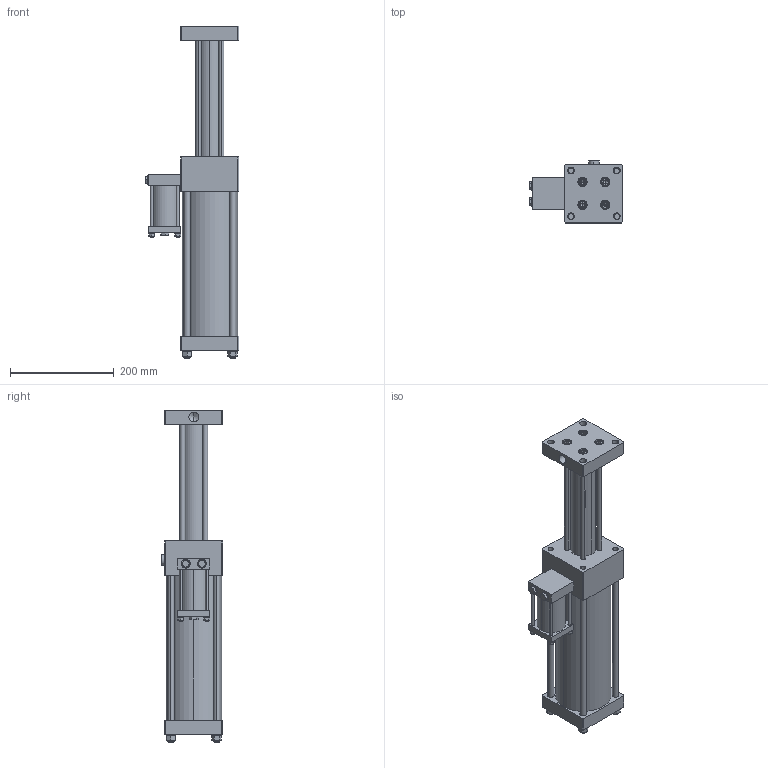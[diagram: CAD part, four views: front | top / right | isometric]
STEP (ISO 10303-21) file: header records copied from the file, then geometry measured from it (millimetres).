
FILE_DESCRIPTION (( 'STEP AP203' ), '1' );
FILE_NAME ('1320 064 100.STEP', '2016-02-22T09:10:55', ( 'Admin' ), ( '' ), 'SwSTEP 2.0', 'SolidWorks 2015', '' );
FILE_SCHEMA (( 'CONFIG_CONTROL_DESIGN' ));
Length unit declared in the file: millimetre
Products named in the file (10): hexagon nut_is1_IS 1363-2 - M6-N; spring lock washer 6735_is_IS 6735- 10; hexagon nut_is1_IS 1363-2 - M10-N; hhb(grade a)_is_IS 1364 HHB(Grade A) - M8 x 40 x 22-N_1; plain washer (type a)_is_IS 2016 A- 9_1; spring lock washer 6735_is1_IS 6735- 10_1; socket head cap screw_is_IS 2269 - M10 x 16-N_1; 1320 064 100; 1320_1320 064 100; spring lock washer 6735_is_IS 6735- 6
Assembly tree (29 placements, depth 2):
  1320 064 100
    1320_1320 064 100
    spring lock washer 6735_is_IS 6735- 6  x4
    hexagon nut_is1_IS 1363-2 - M6-N  x4
    spring lock washer 6735_is_IS 6735- 10  x4
    hexagon nut_is1_IS 1363-2 - M10-N  x4
    hhb(grade a)_is_IS 1364 HHB(Grade A) - M8 x 40 x 22-N_1  x2
    plain washer (type a)_is_IS 2016 A- 9_1  x2
    spring lock washer 6735_is1_IS 6735- 10_1  x4
    socket head cap screw_is_IS 2269 - M10 x 16-N_1  x4
Bounding box: 180.9 x 119 x 640 mm (x, y, z)
Volume: 5032004.4 mm3; surface area: 417308.2 mm2
Topology: 34 solids, 34 shells, 739 faces, 1702 edges, 1057 vertices
Faces by surface type: plane 285, cylinder 220, cone 182, bspline 44, torus 8
Entity records: 12325 total; most frequent: CARTESIAN_POINT 2396, DIRECTION 1826, ORIENTED_EDGE 1640, EDGE_CURVE 820, AXIS2_PLACEMENT_3D 725, VERTEX_POINT 525, EDGE_LOOP 443, VECTOR 376
